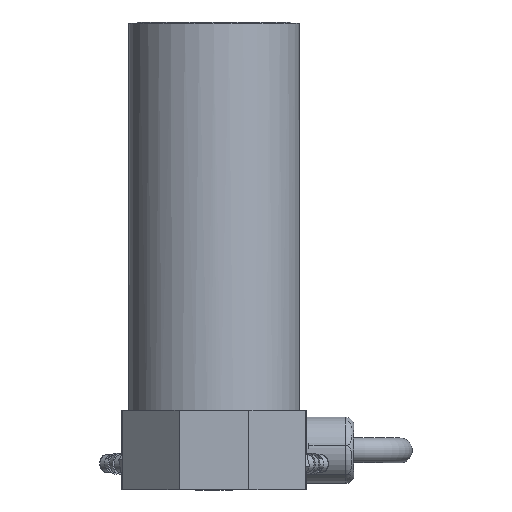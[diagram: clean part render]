
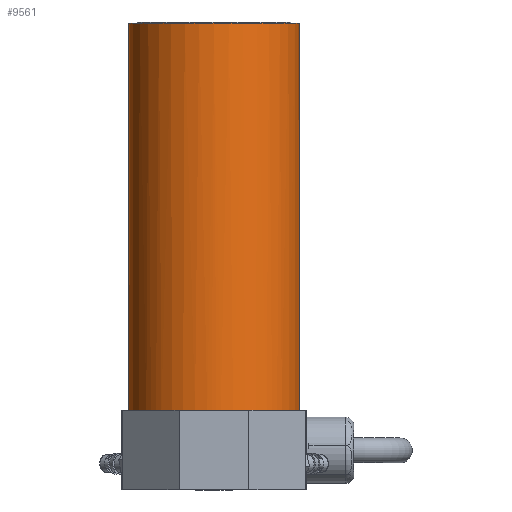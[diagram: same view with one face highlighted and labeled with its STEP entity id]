
A CAD part, left-side view. The second image highlights one B-rep face of the part: STEP entity #9561.
In plain terms, the highlighted cylindrical face has radius 20.637 mm (diameter 41.275 mm), a full revolution.
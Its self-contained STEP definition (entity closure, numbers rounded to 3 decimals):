
#556=LINE('',#14156,#1364);
#1364=VECTOR('',#11380,20.638);
#2098=CYLINDRICAL_SURFACE('',#10232,20.638);
#2237=FACE_OUTER_BOUND('',#2781,.T.);
#2781=EDGE_LOOP('',(#6308,#6309,#6310,#6311,#6312,#6313,#6314,#6315,#6316,
#6317,#6318,#6319,#6320,#6321));
#3385=CIRCLE('',#10219,20.638);
#3386=CIRCLE('',#10221,20.638);
#3387=CIRCLE('',#10223,20.638);
#3389=CIRCLE('',#10226,20.638);
#3391=CIRCLE('',#10229,20.638);
#3393=CIRCLE('',#10233,20.638);
#3394=CIRCLE('',#10234,20.638);
#3395=CIRCLE('',#10235,20.638);
#3396=CIRCLE('',#10236,20.638);
#3397=CIRCLE('',#10237,20.638);
#3398=CIRCLE('',#10238,20.638);
#3399=CIRCLE('',#10239,20.638);
#3783=VERTEX_POINT('',#14120);
#3784=VERTEX_POINT('',#14121);
#3785=VERTEX_POINT('',#14125);
#3786=VERTEX_POINT('',#14126);
#3787=VERTEX_POINT('',#14130);
#3788=VERTEX_POINT('',#14131);
#3790=VERTEX_POINT('',#14136);
#3791=VERTEX_POINT('',#14138);
#3792=VERTEX_POINT('',#14142);
#3794=VERTEX_POINT('',#14145);
#3796=VERTEX_POINT('',#14153);
#3797=VERTEX_POINT('',#14155);
#4767=EDGE_CURVE('',#3784,#3783,#3385,.T.);
#4769=EDGE_CURVE('',#3785,#3786,#3386,.T.);
#4771=EDGE_CURVE('',#3788,#3787,#3387,.T.);
#4773=EDGE_CURVE('',#3790,#3791,#3389,.T.);
#4777=EDGE_CURVE('',#3794,#3792,#3391,.T.);
#4780=EDGE_CURVE('',#3796,#3796,#3393,.T.);
#4781=EDGE_CURVE('',#3796,#3797,#556,.T.);
#4782=EDGE_CURVE('',#3792,#3797,#3394,.T.);
#4783=EDGE_CURVE('',#3783,#3794,#3395,.T.);
#4784=EDGE_CURVE('',#3786,#3784,#3396,.T.);
#4785=EDGE_CURVE('',#3787,#3785,#3397,.T.);
#4786=EDGE_CURVE('',#3791,#3788,#3398,.T.);
#4787=EDGE_CURVE('',#3797,#3790,#3399,.T.);
#6308=ORIENTED_EDGE('',*,*,#4780,.T.);
#6309=ORIENTED_EDGE('',*,*,#4781,.T.);
#6310=ORIENTED_EDGE('',*,*,#4782,.F.);
#6311=ORIENTED_EDGE('',*,*,#4777,.F.);
#6312=ORIENTED_EDGE('',*,*,#4783,.F.);
#6313=ORIENTED_EDGE('',*,*,#4767,.F.);
#6314=ORIENTED_EDGE('',*,*,#4784,.F.);
#6315=ORIENTED_EDGE('',*,*,#4769,.F.);
#6316=ORIENTED_EDGE('',*,*,#4785,.F.);
#6317=ORIENTED_EDGE('',*,*,#4771,.F.);
#6318=ORIENTED_EDGE('',*,*,#4786,.F.);
#6319=ORIENTED_EDGE('',*,*,#4773,.F.);
#6320=ORIENTED_EDGE('',*,*,#4787,.F.);
#6321=ORIENTED_EDGE('',*,*,#4781,.F.);
#9561=ADVANCED_FACE('',(#2237),#2098,.T.);
#10219=AXIS2_PLACEMENT_3D('',#14123,#11345,#11346);
#10221=AXIS2_PLACEMENT_3D('',#14128,#11350,#11351);
#10223=AXIS2_PLACEMENT_3D('',#14133,#11355,#11356);
#10226=AXIS2_PLACEMENT_3D('',#14139,#11361,#11362);
#10229=AXIS2_PLACEMENT_3D('',#14147,#11369,#11370);
#10232=AXIS2_PLACEMENT_3D('',#14152,#11376,#11377);
#10233=AXIS2_PLACEMENT_3D('',#14154,#11378,#11379);
#10234=AXIS2_PLACEMENT_3D('',#14157,#11381,#11382);
#10235=AXIS2_PLACEMENT_3D('',#14158,#11383,#11384);
#10236=AXIS2_PLACEMENT_3D('',#14159,#11385,#11386);
#10237=AXIS2_PLACEMENT_3D('',#14160,#11387,#11388);
#10238=AXIS2_PLACEMENT_3D('',#14161,#11389,#11390);
#10239=AXIS2_PLACEMENT_3D('',#14162,#11391,#11392);
#11345=DIRECTION('center_axis',(0.,0.,-1.));
#11346=DIRECTION('ref_axis',(-1.,0.,0.));
#11350=DIRECTION('center_axis',(0.,0.,-1.));
#11351=DIRECTION('ref_axis',(-1.,0.,0.));
#11355=DIRECTION('center_axis',(0.,0.,-1.));
#11356=DIRECTION('ref_axis',(-1.,0.,0.));
#11361=DIRECTION('center_axis',(0.,0.,-1.));
#11362=DIRECTION('ref_axis',(-1.,0.,0.));
#11369=DIRECTION('center_axis',(0.,0.,-1.));
#11370=DIRECTION('ref_axis',(-1.,0.,0.));
#11376=DIRECTION('center_axis',(0.,0.,1.));
#11377=DIRECTION('ref_axis',(-1.,0.,0.));
#11378=DIRECTION('center_axis',(0.,0.,-1.));
#11379=DIRECTION('ref_axis',(-1.,0.,0.));
#11380=DIRECTION('',(0.,0.,-1.));
#11381=DIRECTION('center_axis',(0.,0.,-1.));
#11382=DIRECTION('ref_axis',(-1.,0.,0.));
#11383=DIRECTION('center_axis',(0.,0.,-1.));
#11384=DIRECTION('ref_axis',(-1.,0.,0.));
#11385=DIRECTION('center_axis',(0.,0.,-1.));
#11386=DIRECTION('ref_axis',(-1.,0.,0.));
#11387=DIRECTION('center_axis',(0.,0.,-1.));
#11388=DIRECTION('ref_axis',(-1.,0.,0.));
#11389=DIRECTION('center_axis',(0.,0.,-1.));
#11390=DIRECTION('ref_axis',(-1.,0.,0.));
#11391=DIRECTION('center_axis',(0.,0.,-1.));
#11392=DIRECTION('ref_axis',(-1.,0.,0.));
#14120=CARTESIAN_POINT('',(-12.65,16.306,19.177));
#14121=CARTESIAN_POINT('',(-16.306,12.65,19.177));
#14123=CARTESIAN_POINT('Origin',(0.,0.,19.177));
#14125=CARTESIAN_POINT('',(-20.574,-1.618,19.177));
#14126=CARTESIAN_POINT('',(-20.574,1.618,19.177));
#14128=CARTESIAN_POINT('Origin',(0.,0.,19.177));
#14130=CARTESIAN_POINT('',(-16.306,-12.65,19.177));
#14131=CARTESIAN_POINT('',(-12.65,-16.306,19.177));
#14133=CARTESIAN_POINT('Origin',(0.,0.,19.177));
#14136=CARTESIAN_POINT('',(15.664,-13.436,19.177));
#14138=CARTESIAN_POINT('',(12.65,-16.306,19.177));
#14139=CARTESIAN_POINT('Origin',(0.,0.,19.177));
#14142=CARTESIAN_POINT('',(15.664,13.436,19.177));
#14145=CARTESIAN_POINT('',(12.65,16.306,19.177));
#14147=CARTESIAN_POINT('Origin',(0.,0.,19.177));
#14152=CARTESIAN_POINT('Origin',(0.,0.,19.177));
#14153=CARTESIAN_POINT('',(20.638,0.,112.395));
#14154=CARTESIAN_POINT('Origin',(0.,0.,112.395));
#14155=CARTESIAN_POINT('',(20.638,0.,19.177));
#14156=CARTESIAN_POINT('',(20.638,0.,19.177));
#14157=CARTESIAN_POINT('Origin',(0.,0.,19.177));
#14158=CARTESIAN_POINT('Origin',(0.,0.,19.177));
#14159=CARTESIAN_POINT('Origin',(0.,0.,19.177));
#14160=CARTESIAN_POINT('Origin',(0.,0.,19.177));
#14161=CARTESIAN_POINT('Origin',(0.,0.,19.177));
#14162=CARTESIAN_POINT('Origin',(0.,0.,19.177));
